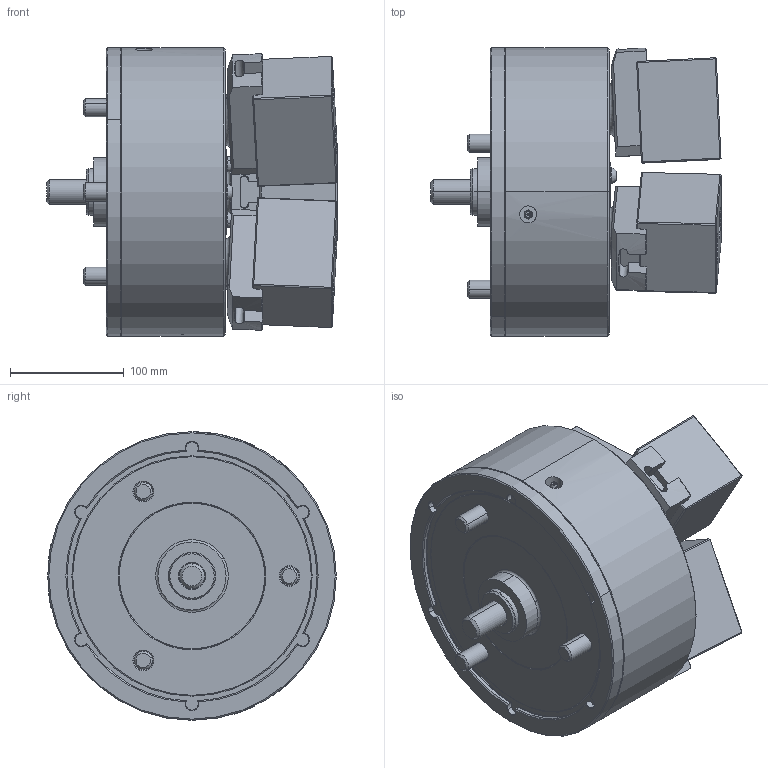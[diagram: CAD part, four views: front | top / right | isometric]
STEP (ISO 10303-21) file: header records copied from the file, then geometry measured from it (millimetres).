
FILE_DESCRIPTION (( 'STEP AP214' ), '1' );
FILE_NAME ('PW-10_UC.STEP', '2025-08-18T06:46:20', ( '' ), ( '' ), 'SwSTEP 2.0', 'SolidWorks 2022', '' );
FILE_SCHEMA (( 'AUTOMOTIVE_DESIGN' ));
Length unit declared in the file: millimetre
Products named in the file (6): 61P322899; 0030116105; 結合_OD; 0030116025; 61P420193; PW-10_UC
Assembly tree (16 placements, depth 2):
  PW-10_UC
    61P322899  x3
    61P420193  x3
    0030116025  x6
    0030116105  x3
    結合_OD
Bounding box: 255.25 x 254 x 254 mm (x, y, z)
Volume: 6682152.7 mm3; surface area: 494455.4 mm2
Topology: 16 solids, 19 shells, 1545 faces, 3909 edges, 2506 vertices
Faces by surface type: plane 754, cone 307, cylinder 245, bspline 189, torus 42, sphere 8
Entity records: 47500 total; most frequent: CARTESIAN_POINT 17805, ORIENTED_EDGE 6494, DIRECTION 5359, EDGE_CURVE 3247, VERTEX_POINT 2093, AXIS2_PLACEMENT_3D 1796, VECTOR 1767, LINE 1767
